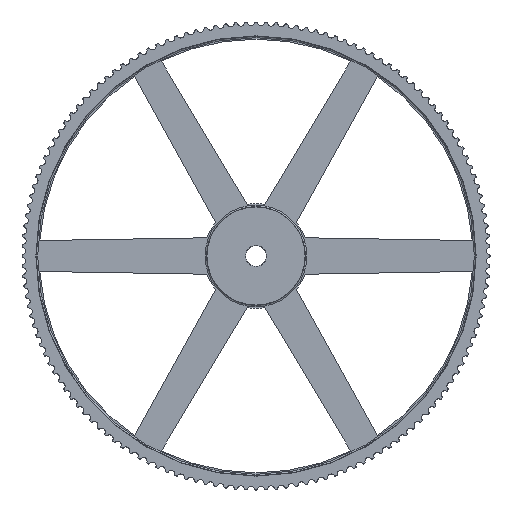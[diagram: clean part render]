
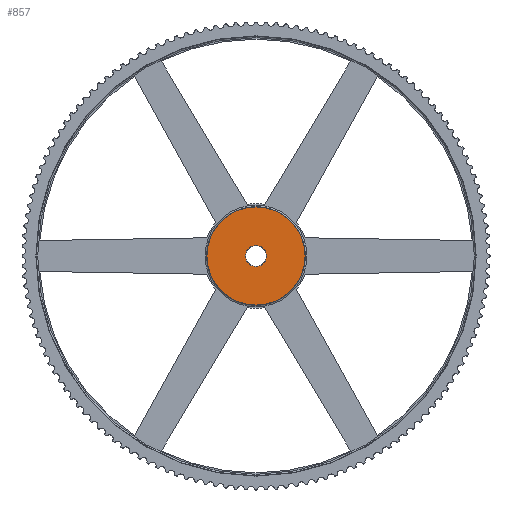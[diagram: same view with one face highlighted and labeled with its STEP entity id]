
A CAD part, left-side view. The second image highlights one B-rep face of the part: STEP entity #857.
In plain terms, the highlighted planar face has unit normal (-1, 0, 0).
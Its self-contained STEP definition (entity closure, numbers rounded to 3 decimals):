
#857=ADVANCED_FACE('',(#2440,#2441),#2442,.T.);
#2440=FACE_BOUND('',#4026,.T.);
#2441=FACE_OUTER_BOUND('',#4027,.T.);
#2442=PLANE('',#4028);
#4026=EDGE_LOOP('',(#11014,#11015));
#4027=EDGE_LOOP('',(#11016,#11017));
#4028=AXIS2_PLACEMENT_3D('',#11018,#11019,#11020);
#11014=ORIENTED_EDGE('',*,*,#11099,.T.);
#11015=ORIENTED_EDGE('',*,*,#11105,.T.);
#11016=ORIENTED_EDGE('',*,*,#13347,.T.);
#11017=ORIENTED_EDGE('',*,*,#11038,.T.);
#11018=CARTESIAN_POINT('',(0.0,0.0,0.0));
#11019=DIRECTION('',(-1.0,0.0,0.0));
#11020=DIRECTION('',(0.0,0.0,1.0));
#11038=EDGE_CURVE('',#13370,#13367,#13371,.T.);
#11099=EDGE_CURVE('',#13479,#13481,#13483,.T.);
#11105=EDGE_CURVE('',#13481,#13479,#13491,.T.);
#13347=EDGE_CURVE('',#13367,#13370,#17213,.T.);
#13367=VERTEX_POINT('',#17237);
#13370=VERTEX_POINT('',#17241);
#13371=CIRCLE('',#17242,67.0);
#13479=VERTEX_POINT('',#17371);
#13481=VERTEX_POINT('',#17374);
#13483=CIRCLE('',#17377,14.5);
#13491=CIRCLE('',#17387,14.5);
#17213=CIRCLE('',#21873,67.0);
#17237=CARTESIAN_POINT('',(0.0,67.0,0.0));
#17241=CARTESIAN_POINT('',(0.0,-67.0,0.));
#17242=AXIS2_PLACEMENT_3D('',#21896,#21897,#21898);
#17371=CARTESIAN_POINT('',(0.0,14.5,0.0));
#17374=CARTESIAN_POINT('',(0.0,-14.5,0.));
#17377=AXIS2_PLACEMENT_3D('',#22033,#22034,#22035);
#17387=AXIS2_PLACEMENT_3D('',#22047,#22048,#22049);
#21873=AXIS2_PLACEMENT_3D('',#27245,#27246,#27247);
#21896=CARTESIAN_POINT('',(0.0,0.0,0.));
#21897=DIRECTION('',(-1.0,0.0,0.0));
#21898=DIRECTION('',(0.0,1.0,0.0));
#22033=CARTESIAN_POINT('',(0.0,0.0,0.0));
#22034=DIRECTION('',(1.0,0.0,0.0));
#22035=DIRECTION('',(0.0,1.0,0.0));
#22047=CARTESIAN_POINT('',(0.0,0.0,0.0));
#22048=DIRECTION('',(1.0,0.0,0.0));
#22049=DIRECTION('',(0.0,1.0,0.0));
#27245=CARTESIAN_POINT('',(0.0,0.0,0.));
#27246=DIRECTION('',(-1.0,0.0,0.0));
#27247=DIRECTION('',(0.0,1.0,0.0));
